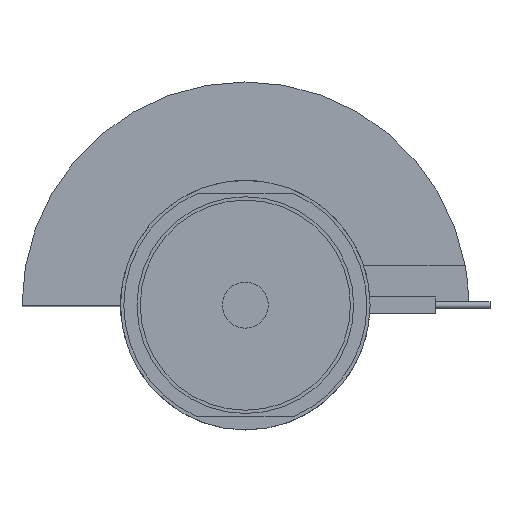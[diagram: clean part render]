
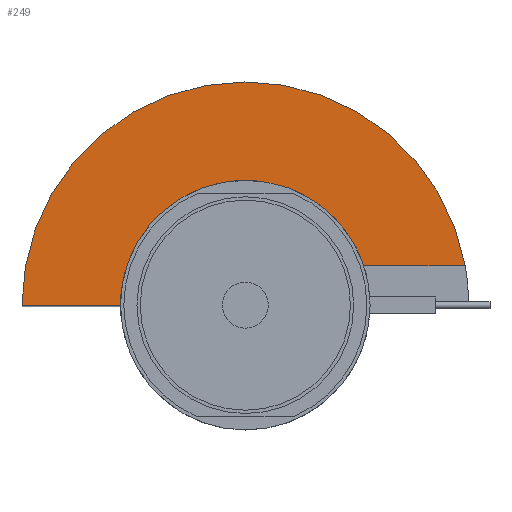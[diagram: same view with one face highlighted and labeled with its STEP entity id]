
A CAD part, top view. The second image highlights one B-rep face of the part: STEP entity #249.
In plain terms, the highlighted planar face has unit normal (0, 0, 1).
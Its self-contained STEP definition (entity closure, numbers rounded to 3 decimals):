
#249=ADVANCED_FACE('',(#374),#307,.F.);
#307=PLANE('',#1691);
#374=FACE_OUTER_BOUND('',#735,.T.);
#448=LINE('',#2662,#519);
#460=LINE('',#2696,#531);
#519=VECTOR('',#2096,1.);
#531=VECTOR('',#2122,1.);
#735=EDGE_LOOP('',(#1031,#1032,#1033,#1034));
#1031=ORIENTED_EDGE('',*,*,#1405,.F.);
#1032=ORIENTED_EDGE('',*,*,#1406,.T.);
#1033=ORIENTED_EDGE('',*,*,#1407,.F.);
#1034=ORIENTED_EDGE('',*,*,#1389,.F.);
#1229=VERTEX_POINT('',#2661);
#1230=VERTEX_POINT('',#2663);
#1244=VERTEX_POINT('',#2695);
#1245=VERTEX_POINT('',#2697);
#1389=EDGE_CURVE('',#1229,#1230,#448,.T.);
#1405=EDGE_CURVE('',#1244,#1229,#1507,.T.);
#1406=EDGE_CURVE('',#1244,#1245,#460,.T.);
#1407=EDGE_CURVE('',#1230,#1245,#1508,.T.);
#1507=CIRCLE('',#1689,19.);
#1508=CIRCLE('',#1690,34.);
#1689=AXIS2_PLACEMENT_3D('',#2694,#2120,#2121);
#1690=AXIS2_PLACEMENT_3D('',#2698,#2123,#2124);
#1691=AXIS2_PLACEMENT_3D('',#2699,#2125,#2126);
#2096=DIRECTION('',(-1.,0.,0.));
#2120=DIRECTION('',(0.,0.,1.));
#2121=DIRECTION('',(-1.,0.,0.));
#2122=DIRECTION('',(1.,0.,0.));
#2123=DIRECTION('',(0.,0.,-1.));
#2124=DIRECTION('',(-1.,0.,0.));
#2125=DIRECTION('',(0.,0.,-1.));
#2126=DIRECTION('',(-1.,0.,0.));
#2661=CARTESIAN_POINT('',(-19.,0.,-10.));
#2662=CARTESIAN_POINT('',(0.,0.,-10.));
#2663=CARTESIAN_POINT('',(-34.,0.,-10.));
#2694=CARTESIAN_POINT('',(0.,0.,-10.));
#2695=CARTESIAN_POINT('',(18.028,6.,-10.));
#2696=CARTESIAN_POINT('',(50.,6.,-10.));
#2697=CARTESIAN_POINT('',(33.466,6.,-10.));
#2698=CARTESIAN_POINT('',(0.,0.,-10.));
#2699=CARTESIAN_POINT('',(0.,0.,-10.));
